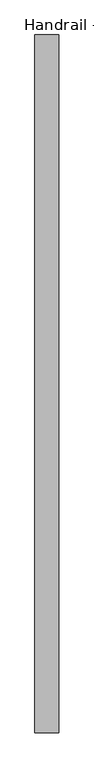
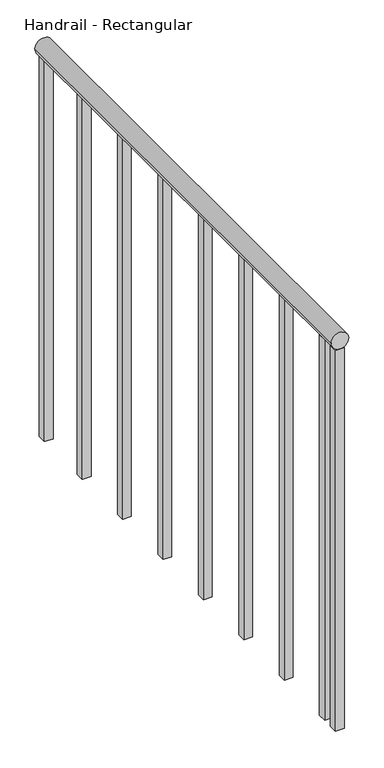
"""IFC4 building model written with IfcOpenShell, lengths in millimetres: railing geometry, Handrail - Rectangular."""

from ifc_helpers import new_model, si_unit, point, frame, frame_2d, origin, place, context, project, spatial, polyline, circle_curve, trimmed, segment, composite_curve, outline, extrude, source, transform, mapped, element, save


def handrail_rectangular_ecbd96a2(model_context):
    return source(origin(), model_context, "Body", "SweptSolid", [
        extrude(outline(composite_curve([segment(trimmed(circle_curve(frame_2d((10039.35, -18451.4839563)), 19.05), [point((10039.35, -18470.5339563))], [point((10039.35, -18432.4339563))], False, "CARTESIAN"), True, "CONTINUOUS"), segment(trimmed(circle_curve(frame_2d((10039.35, -18451.4839563)), 19.05), [point((10039.35, -18432.4339563))], [point((10039.35, -18470.5339563))], False, "CARTESIAN"), True, "CONTINUOUS")], self_intersect=False)), frame((0.0, 10624.0316867, 0.0), z_axis=(0.0, 1.0, 0.0), x_axis=(0.0, 0.0, 1.0)), (0.0, 0.0, 1.0), 1117.6),
        extrude(outline(polyline([(-18441.9589563, 10684.3566867), (-18441.9589563, 10665.3066867), (-18461.0089563, 10665.3066867), (-18461.0089563, 10684.3566867), (-18441.9589563, 10684.3566867)])), frame((0.0, 0.0, 9144.0), z_axis=(0.0, 0.0, 1.0), x_axis=(1.0, 0.0, 0.0)), (0.0, 0.0, 1.0), 876.3),
        extrude(outline(polyline([(-18441.9589563, 10836.7566867), (-18441.9589563, 10817.7066867), (-18461.0089563, 10817.7066867), (-18461.0089563, 10836.7566867), (-18441.9589563, 10836.7566867)])), frame((0.0, 0.0, 9144.0), z_axis=(0.0, 0.0, 1.0), x_axis=(1.0, 0.0, 0.0)), (0.0, 0.0, 1.0), 876.3),
        extrude(outline(polyline([(-18441.9589563, 10989.1566867), (-18441.9589563, 10970.1066867), (-18461.0089563, 10970.1066867), (-18461.0089563, 10989.1566867), (-18441.9589563, 10989.1566867)])), frame((0.0, 0.0, 9144.0), z_axis=(0.0, 0.0, 1.0), x_axis=(1.0, 0.0, 0.0)), (0.0, 0.0, 1.0), 876.3),
        extrude(outline(polyline([(-18441.9589563, 11141.5566867), (-18441.9589563, 11122.5066867), (-18461.0089563, 11122.5066867), (-18461.0089563, 11141.5566867), (-18441.9589563, 11141.5566867)])), frame((0.0, 0.0, 9144.0), z_axis=(0.0, 0.0, 1.0), x_axis=(1.0, 0.0, 0.0)), (0.0, 0.0, 1.0), 876.3),
        extrude(outline(polyline([(-18441.9589563, 11293.9566867), (-18441.9589563, 11274.9066867), (-18461.0089563, 11274.9066867), (-18461.0089563, 11293.9566867), (-18441.9589563, 11293.9566867)])), frame((0.0, 0.0, 9144.0), z_axis=(0.0, 0.0, 1.0), x_axis=(1.0, 0.0, 0.0)), (0.0, 0.0, 1.0), 876.3),
        extrude(outline(polyline([(-18441.9589563, 11446.3566867), (-18441.9589563, 11427.3066867), (-18461.0089563, 11427.3066867), (-18461.0089563, 11446.3566867), (-18441.9589563, 11446.3566867)])), frame((0.0, 0.0, 9144.0), z_axis=(0.0, 0.0, 1.0), x_axis=(1.0, 0.0, 0.0)), (0.0, 0.0, 1.0), 876.3),
        extrude(outline(polyline([(-18441.9589563, 11598.7566867), (-18441.9589563, 11579.7066867), (-18461.0089563, 11579.7066867), (-18461.0089563, 11598.7566867), (-18441.9589563, 11598.7566867)])), frame((0.0, 0.0, 9144.0), z_axis=(0.0, 0.0, 1.0), x_axis=(1.0, 0.0, 0.0)), (0.0, 0.0, 1.0), 876.3),
        extrude(outline(polyline([(-18441.9589563, 10643.0816867), (-18441.9589563, 10624.0316867), (-18461.0089563, 10624.0316867), (-18461.0089563, 10643.0816867), (-18441.9589563, 10643.0816867)])), frame((0.0, 0.0, 9144.0), z_axis=(0.0, 0.0, 1.0), x_axis=(1.0, 0.0, 0.0)), (0.0, 0.0, 1.0), 876.3),
        extrude(outline(polyline([(-18441.9589563, 11741.6316867), (-18441.9589563, 11722.5816867), (-18461.0089563, 11722.5816867), (-18461.0089563, 11741.6316867), (-18441.9589563, 11741.6316867)])), frame((0.0, 0.0, 9144.0), z_axis=(0.0, 0.0, 1.0), x_axis=(1.0, 0.0, 0.0)), (0.0, 0.0, 1.0), 876.3),
    ])


if __name__ == "__main__":
    model = new_model("IFC4")
    model_context = context("Model", 3, world=origin())
    ifc_project = project(units=[si_unit("LENGTHUNIT", "METRE", prefix="MILLI")], contexts=[model_context])
    site = spatial("IfcSite", under=ifc_project)
    building = spatial("IfcBuilding", under=site)
    placement = place(None, origin())
    handrail_rectangular_shape = handrail_rectangular_ecbd96a2(model_context)
    element("IfcRailing", 1, ObjectType="Handrail - Rectangular", at=placement, inside=building, context=model_context, shape_type="MappedRepresentation", body=[
        mapped(handrail_rectangular_shape, transform((0.0, 0.0, 0.0), x_axis=(1.0, 0.0, 0.0), y_axis=(0.0, 1.0, 0.0), z_axis=(0.0, 0.0, 1.0))),
    ])
    save(model, "model.ifc")
